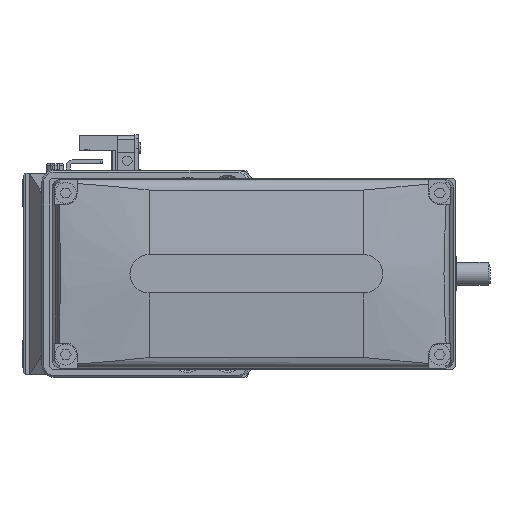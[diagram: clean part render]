
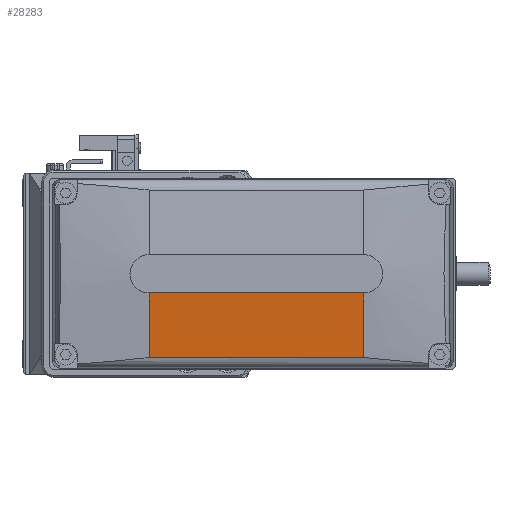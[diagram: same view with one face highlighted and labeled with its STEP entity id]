
A CAD part, left-side view. The second image highlights one B-rep face of the part: STEP entity #28283.
In plain terms, the highlighted planar face has unit normal (-0.996, 0, -0.087).
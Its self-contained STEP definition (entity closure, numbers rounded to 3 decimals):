
#960 = ORIENTED_EDGE ( 'NONE', *, *, #22836, .T. ) ;
#1324 = CARTESIAN_POINT ( 'NONE',  ( -50., 28., -5. ) ) ;
#5159 = DIRECTION ( 'NONE',  ( 0.087, 0., -0.996 ) ) ;
#5203 = LINE ( 'NONE', #11229, #21374 ) ;
#5714 = EDGE_CURVE ( 'NONE', #18310, #33399, #20045, .T. ) ;
#7384 = CARTESIAN_POINT ( 'NONE',  ( -48.525, 28., -21.861 ) ) ;
#11229 = CARTESIAN_POINT ( 'NONE',  ( 43606.406, -28., -499000. ) ) ;
#11269 = AXIS2_PLACEMENT_3D ( 'NONE', #26436, #11447, #17367 ) ;
#11447 = DIRECTION ( 'NONE',  ( -0.996, 0., -0.087 ) ) ;
#11636 = EDGE_LOOP ( 'NONE', ( #34115, #35200, #14496, #960 ) ) ;
#11941 = PLANE ( 'NONE',  #11269 ) ;
#14028 = VECTOR ( 'NONE', #26910, 1000. ) ;
#14496 = ORIENTED_EDGE ( 'NONE', *, *, #26068, .F. ) ;
#14915 = VECTOR ( 'NONE', #32838, 1000. ) ;
#15084 = LINE ( 'NONE', #26072, #15999 ) ;
#15999 = VECTOR ( 'NONE', #29166, 1000. ) ;
#16999 = VERTEX_POINT ( 'NONE', #36094 ) ;
#17367 = DIRECTION ( 'NONE',  ( -0.087, 0., 0.996 ) ) ;
#18310 = VERTEX_POINT ( 'NONE', #37226 ) ;
#20045 = LINE ( 'NONE', #30035, #14028 ) ;
#21374 = VECTOR ( 'NONE', #5159, 1000. ) ;
#22836 = EDGE_CURVE ( 'NONE', #16999, #28637, #15084, .T. ) ;
#25601 = EDGE_CURVE ( 'NONE', #33399, #28637, #27401, .T. ) ;
#26068 = EDGE_CURVE ( 'NONE', #16999, #18310, #5203, .T. ) ;
#26072 = CARTESIAN_POINT ( 'NONE',  ( -50., 128., -5. ) ) ;
#26436 = CARTESIAN_POINT ( 'NONE',  ( -50., 128., -5. ) ) ;
#26910 = DIRECTION ( 'NONE',  ( 0., 1., 0. ) ) ;
#27401 = LINE ( 'NONE', #29845, #14915 ) ;
#28283 = ADVANCED_FACE ( 'NONE', ( #37300 ), #11941, .T. ) ;
#28637 = VERTEX_POINT ( 'NONE', #1324 ) ;
#29166 = DIRECTION ( 'NONE',  ( 0., 1., 0. ) ) ;
#29845 = CARTESIAN_POINT ( 'NONE',  ( 43606.406, 28., -499000. ) ) ;
#30035 = CARTESIAN_POINT ( 'NONE',  ( -48.525, 128., -21.861 ) ) ;
#32838 = DIRECTION ( 'NONE',  ( -0.087, 0., 0.996 ) ) ;
#33399 = VERTEX_POINT ( 'NONE', #7384 ) ;
#34115 = ORIENTED_EDGE ( 'NONE', *, *, #25601, .F. ) ;
#35200 = ORIENTED_EDGE ( 'NONE', *, *, #5714, .F. ) ;
#36094 = CARTESIAN_POINT ( 'NONE',  ( -50., -28., -5. ) ) ;
#37226 = CARTESIAN_POINT ( 'NONE',  ( -48.525, -28., -21.861 ) ) ;
#37300 = FACE_OUTER_BOUND ( 'NONE', #11636, .T. ) ;
